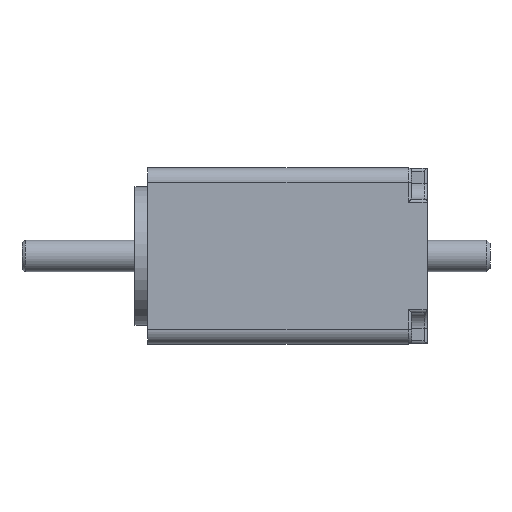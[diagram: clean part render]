
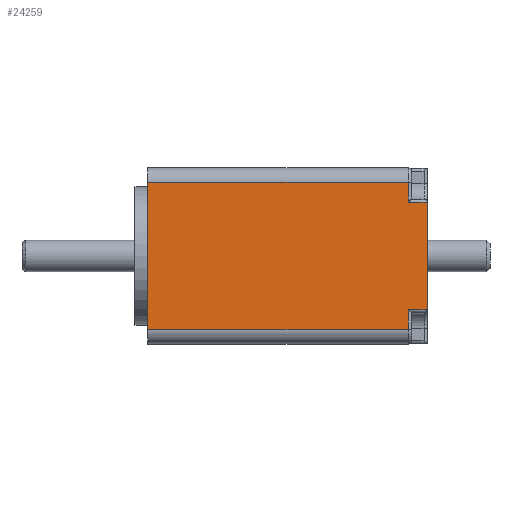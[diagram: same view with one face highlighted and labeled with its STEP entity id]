
A CAD part, top view. The second image highlights one B-rep face of the part: STEP entity #24259.
In plain terms, the highlighted planar face has unit normal (0, 0, 1).
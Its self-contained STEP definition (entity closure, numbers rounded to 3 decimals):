
#15362=CARTESIAN_POINT('',(44.55,8.55,14.));
#15363=VERTEX_POINT('',#15362);
#15370=CARTESIAN_POINT('',(44.55,-8.55,14.));
#15371=VERTEX_POINT('',#15370);
#15372=CARTESIAN_POINT('',(44.55,8.55,14.));
#15373=DIRECTION('',(0.,-1.,0.));
#15374=VECTOR('',#15373,17.1);
#15375=LINE('',#15372,#15374);
#15376=EDGE_CURVE('',#15363,#15371,#15375,.T.);
#16364=CARTESIAN_POINT('',(41.55,8.55,14.));
#16365=VERTEX_POINT('',#16364);
#16375=CARTESIAN_POINT('',(44.55,8.55,14.));
#16376=DIRECTION('',(-1.,0.,0.));
#16377=VECTOR('',#16376,3.);
#16378=LINE('',#16375,#16377);
#16379=EDGE_CURVE('',#15363,#16365,#16378,.T.);
#16389=CARTESIAN_POINT('',(41.55,-11.7,14.));
#16390=VERTEX_POINT('',#16389);
#16408=CARTESIAN_POINT('',(41.55,-8.55,14.));
#16409=VERTEX_POINT('',#16408);
#16419=CARTESIAN_POINT('',(41.55,-11.7,14.));
#16420=DIRECTION('',(0.,1.,0.));
#16421=VECTOR('',#16420,3.15);
#16422=LINE('',#16419,#16421);
#16423=EDGE_CURVE('',#16390,#16409,#16422,.T.);
#16433=CARTESIAN_POINT('',(41.55,-8.55,14.));
#16434=DIRECTION('',(1.,0.,0.));
#16435=VECTOR('',#16434,3.);
#16436=LINE('',#16433,#16435);
#16437=EDGE_CURVE('',#16409,#15371,#16436,.T.);
#16457=CARTESIAN_POINT('',(41.55,11.7,14.));
#16458=VERTEX_POINT('',#16457);
#16466=CARTESIAN_POINT('',(41.55,8.55,14.));
#16467=DIRECTION('',(0.,1.,0.));
#16468=VECTOR('',#16467,3.15);
#16469=LINE('',#16466,#16468);
#16470=EDGE_CURVE('',#16365,#16458,#16469,.T.);
#23863=CARTESIAN_POINT('',(0.,11.7,14.));
#23864=VERTEX_POINT('',#23863);
#23872=CARTESIAN_POINT('',(41.55,11.7,14.));
#23873=DIRECTION('',(-1.,0.,0.));
#23874=VECTOR('',#23873,41.55);
#23875=LINE('',#23872,#23874);
#23876=EDGE_CURVE('',#16458,#23864,#23875,.T.);
#23887=CARTESIAN_POINT('',(0.,-11.7,14.));
#23888=VERTEX_POINT('',#23887);
#23889=CARTESIAN_POINT('',(41.55,-11.7,14.));
#23890=DIRECTION('',(-1.,0.,0.));
#23891=VECTOR('',#23890,41.55);
#23892=LINE('',#23889,#23891);
#23893=EDGE_CURVE('',#16390,#23888,#23892,.T.);
#24239=CARTESIAN_POINT('',(40.275,0.,14.));
#24240=DIRECTION('',(0.,1.,0.));
#24241=DIRECTION('',(0.,-0.,1.));
#24242=AXIS2_PLACEMENT_3D('',#24239,#24241,#24240);
#24243=PLANE('',#24242);
#24244=ORIENTED_EDGE('',*,*,#16423,.T.);
#24245=ORIENTED_EDGE('',*,*,#16437,.T.);
#24246=ORIENTED_EDGE('',*,*,#15376,.F.);
#24247=ORIENTED_EDGE('',*,*,#16379,.T.);
#24248=ORIENTED_EDGE('',*,*,#16470,.T.);
#24249=ORIENTED_EDGE('',*,*,#23876,.T.);
#24250=CARTESIAN_POINT('',(0.,-11.7,14.));
#24251=DIRECTION('',(0.,1.,0.));
#24252=VECTOR('',#24251,23.4);
#24253=LINE('',#24250,#24252);
#24254=EDGE_CURVE('',#23888,#23864,#24253,.T.);
#24255=ORIENTED_EDGE('E2094',*,*,#24254,.F.);
#24256=ORIENTED_EDGE('E2094',*,*,#23893,.F.);
#24257=EDGE_LOOP('',(#24244,#24245,#24246,#24247,#24248,#24249,#24255,#24256));
#24258=FACE_OUTER_BOUND('',#24257,.T.);
#24259=ADVANCED_FACE('F1719',(#24258),#24243,.T.);
